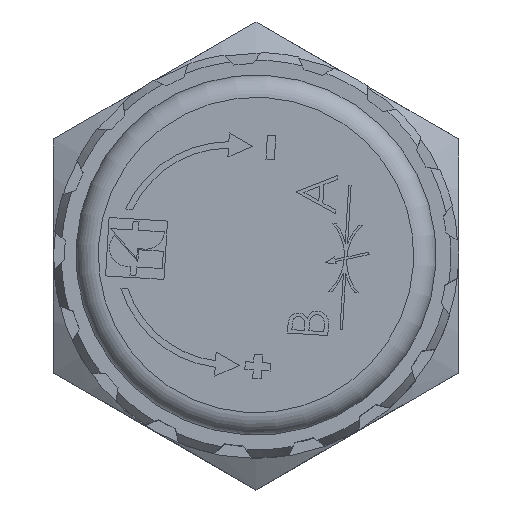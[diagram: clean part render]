
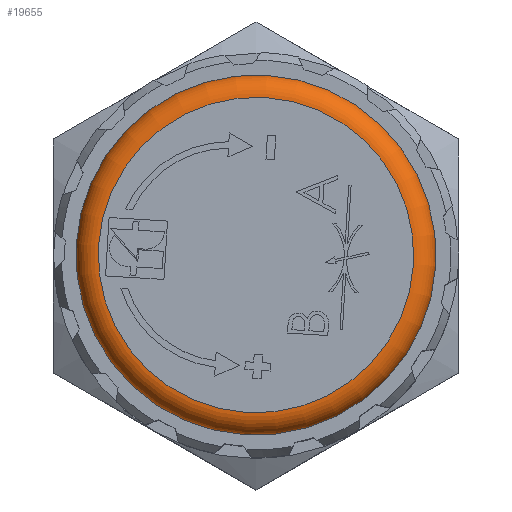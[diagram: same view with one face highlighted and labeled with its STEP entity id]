
A CAD part, top view. The second image highlights one B-rep face of the part: STEP entity #19655.
In plain terms, the highlighted toroidal (fillet/blend) face has major radius 10.513 mm and minor radius 1.5 mm.
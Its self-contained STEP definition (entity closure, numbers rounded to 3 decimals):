
#1070 = ORIENTED_EDGE ( 'NONE', *, *, #5871, .T. ) ;
#5871 = EDGE_CURVE ( 'NONE', #20251, #20251, #14433, .T. ) ;
#7978 = TOROIDAL_SURFACE ( 'NONE', #18081, 10.513, 1.5 ) ;
#8531 = EDGE_LOOP ( 'NONE', ( #20281 ) ) ;
#9312 = AXIS2_PLACEMENT_3D ( 'NONE', #24031, #26623, #10584 ) ;
#10262 = VERTEX_POINT ( 'NONE', #12683 ) ;
#10584 = DIRECTION ( 'NONE',  ( 1., 0., 0. ) ) ;
#11090 = AXIS2_PLACEMENT_3D ( 'NONE', #21145, #14065, #28136 ) ;
#12683 = CARTESIAN_POINT ( 'NONE',  ( 10.513, 0., 0. ) ) ;
#12721 = EDGE_CURVE ( 'NONE', #10262, #10262, #22320, .T. ) ;
#14065 = DIRECTION ( 'NONE',  ( 0., 0., 1. ) ) ;
#14433 = CIRCLE ( 'NONE', #11090, 12. ) ;
#15630 = DIRECTION ( 'NONE',  ( -1., 0., 0. ) ) ;
#15926 = FACE_OUTER_BOUND ( 'NONE', #27605, .T. ) ;
#17821 = CARTESIAN_POINT ( 'NONE',  ( 12., 0., -1.3 ) ) ;
#18081 = AXIS2_PLACEMENT_3D ( 'NONE', #20765, #18189, #15630 ) ;
#18189 = DIRECTION ( 'NONE',  ( 0., 0., -1. ) ) ;
#19655 = ADVANCED_FACE ( 'NONE', ( #15926, #22575 ), #7978, .T. ) ;
#20251 = VERTEX_POINT ( 'NONE', #17821 ) ;
#20281 = ORIENTED_EDGE ( 'NONE', *, *, #12721, .F. ) ;
#20765 = CARTESIAN_POINT ( 'NONE',  ( 0., 0., -1.5 ) ) ;
#21145 = CARTESIAN_POINT ( 'NONE',  ( 0., 0., -1.3 ) ) ;
#22320 = CIRCLE ( 'NONE', #9312, 10.513 ) ;
#22575 = FACE_OUTER_BOUND ( 'NONE', #8531, .T. ) ;
#24031 = CARTESIAN_POINT ( 'NONE',  ( 0., 0., 0. ) ) ;
#26623 = DIRECTION ( 'NONE',  ( 0., 0., 1. ) ) ;
#27605 = EDGE_LOOP ( 'NONE', ( #1070 ) ) ;
#28136 = DIRECTION ( 'NONE',  ( 1., 0., 0. ) ) ;
